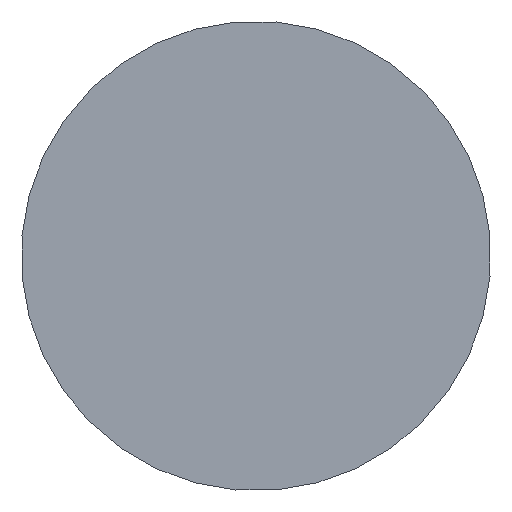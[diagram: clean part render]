
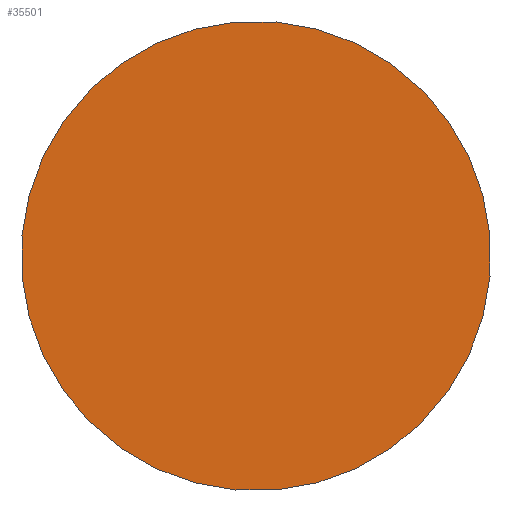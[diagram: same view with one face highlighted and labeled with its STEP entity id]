
A CAD part, left-side view. The second image highlights one B-rep face of the part: STEP entity #35501.
In plain terms, the highlighted planar face has unit normal (-1, 0, 0).
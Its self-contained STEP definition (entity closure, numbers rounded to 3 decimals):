
#35485=CARTESIAN_POINT('',(-5.328,121.72,-3.687));
#35486=DIRECTION('',(-1.0,0.0,0.0));
#35487=DIRECTION('',(0.0,0.088,0.996));
#35488=AXIS2_PLACEMENT_3D('',#35485,#35486,#35487);
#35489=PLANE('',#35488);
#35490=CARTESIAN_POINT('',(-5.328,122.716,-3.775));
#35491=VERTEX_POINT('',#35490);
#35492=CARTESIAN_POINT('',(-5.328,79.882,0.));
#35493=DIRECTION('',(1.,0.,0.));
#35494=DIRECTION('',(0.,0.996,-0.088));
#35495=AXIS2_PLACEMENT_3D('',#35492,#35493,#35494);
#35496=CIRCLE('',#35495,43.);
#35497=EDGE_CURVE('',#35491,#35491,#35496,.T.);
#35498=ORIENTED_EDGE('',*,*,#35497,.F.);
#35499=EDGE_LOOP('',(#35498));
#35500=FACE_OUTER_BOUND('',#35499,.T.);
#35501=ADVANCED_FACE('',(#35500),#35489,.T.);
